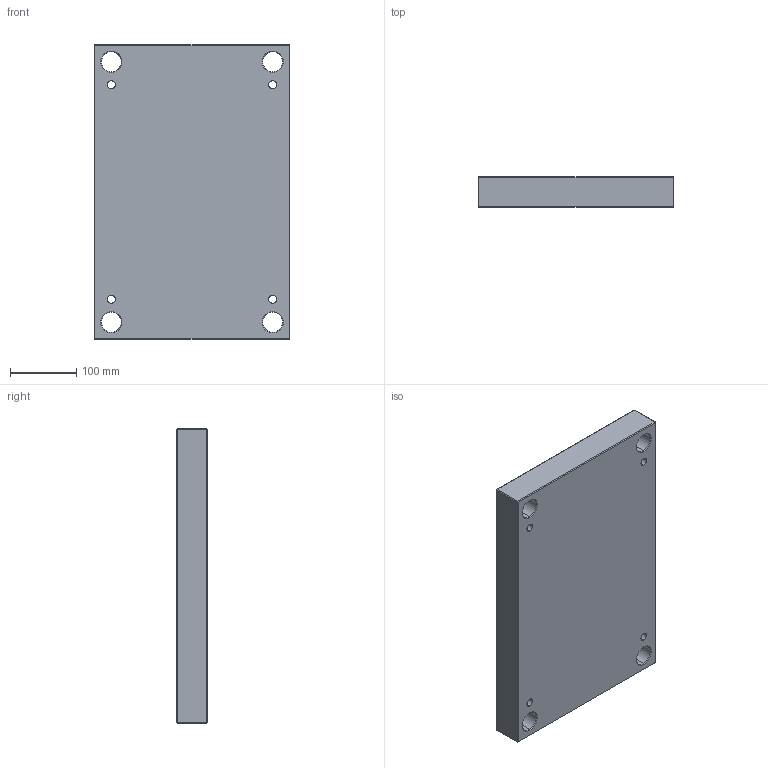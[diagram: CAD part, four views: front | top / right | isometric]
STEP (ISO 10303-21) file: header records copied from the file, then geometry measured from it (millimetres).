
FILE_DESCRIPTION (( 'STEP AP214' ), '1' );
FILE_NAME ('PS-EU-296x446x46.STEP', '2021-02-17T16:18:22', ( '' ), ( '' ), 'SwSTEP 2.0', 'SolidWorks 2018', '' );
FILE_SCHEMA (( 'AUTOMOTIVE_DESIGN' ));
Length unit declared in the file: millimetre
Products named in the file (1): PS-EU-296x446x46
Bounding box: 296 x 46 x 446 mm (x, y, z)
Volume: 5908648.7 mm3; surface area: 349141.3 mm2
Topology: 1 solids, 1 shells, 70 faces, 152 edges, 88 vertices
Faces by surface type: plane 30, cylinder 24, cone 16
Entity records: 1946 total; most frequent: DIRECTION 358, CARTESIAN_POINT 311, ORIENTED_EDGE 304, EDGE_CURVE 152, AXIS2_PLACEMENT_3D 135, EDGE_LOOP 90, VERTEX_POINT 88, VECTOR 88
